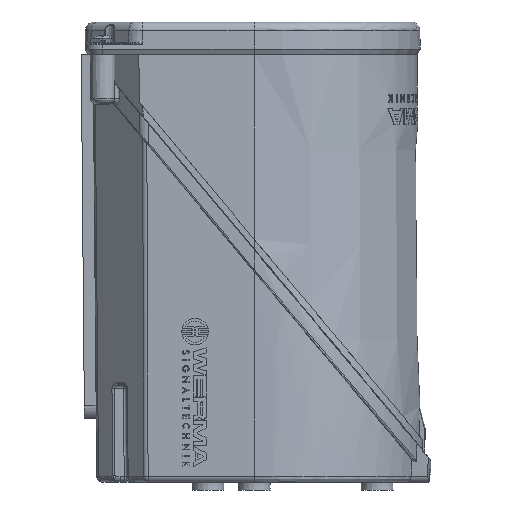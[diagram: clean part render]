
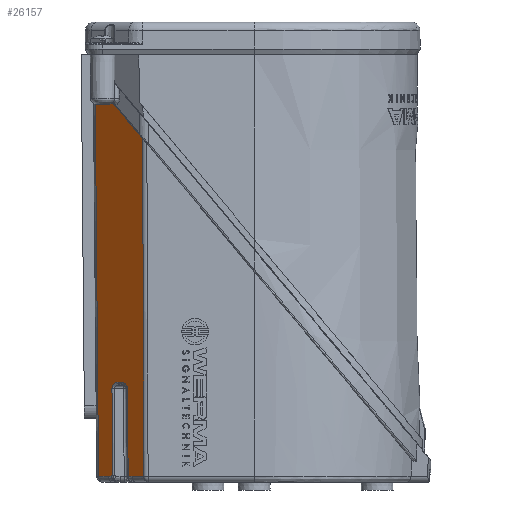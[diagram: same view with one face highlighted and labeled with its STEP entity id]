
A CAD part, left-side view. The second image highlights one B-rep face of the part: STEP entity #26157.
In plain terms, the highlighted planar face has unit normal (-0.707, 0.707, -0.009).
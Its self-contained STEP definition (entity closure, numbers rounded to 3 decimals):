
#242=ELLIPSE('',#28346,2.829,2.);
#243=ELLIPSE('',#28347,2.829,2.);
#244=ELLIPSE('',#28348,2.829,2.);
#245=ELLIPSE('',#28349,2.829,2.);
#1256=PLANE('',#28345);
#3287=LINE('',#57488,#5422);
#3288=LINE('',#57498,#5423);
#3289=LINE('',#57504,#5424);
#3290=LINE('',#57508,#5425);
#3291=LINE('',#57511,#5426);
#3292=LINE('',#57517,#5427);
#3293=LINE('',#57519,#5428);
#3294=LINE('',#57521,#5429);
#3295=LINE('',#57525,#5430);
#5422=VECTOR('',#34466,10.);
#5423=VECTOR('',#34469,10.);
#5424=VECTOR('',#34470,10.);
#5425=VECTOR('',#34473,10.);
#5426=VECTOR('',#34476,10.);
#5427=VECTOR('',#34477,10.);
#5428=VECTOR('',#34478,10.);
#5429=VECTOR('',#34479,10.);
#5430=VECTOR('',#34482,10.);
#5858=(
BOUNDED_CURVE()
B_SPLINE_CURVE(2,(#35646,#35647,#35648),.UNSPECIFIED.,.F.,.F.)
B_SPLINE_CURVE_WITH_KNOTS((3,3),(0.5,1.),.UNSPECIFIED.)
CURVE()
GEOMETRIC_REPRESENTATION_ITEM()
RATIONAL_B_SPLINE_CURVE((1.,1.,1.))
REPRESENTATION_ITEM('')
);
#5864=(
BOUNDED_CURVE()
B_SPLINE_CURVE(2,(#36134,#36135,#36136),.UNSPECIFIED.,.F.,.F.)
B_SPLINE_CURVE_WITH_KNOTS((3,3),(0.5,1.),.UNSPECIFIED.)
CURVE()
GEOMETRIC_REPRESENTATION_ITEM()
RATIONAL_B_SPLINE_CURVE((1.,1.,1.))
REPRESENTATION_ITEM('')
);
#5912=(
BOUNDED_CURVE()
B_SPLINE_CURVE(2,(#57500,#57501,#57502),.UNSPECIFIED.,.F.,.F.)
B_SPLINE_CURVE_WITH_KNOTS((3,3),(0.,0.5),.UNSPECIFIED.)
CURVE()
GEOMETRIC_REPRESENTATION_ITEM()
RATIONAL_B_SPLINE_CURVE((1.,1.,1.))
REPRESENTATION_ITEM('')
);
#5913=(
BOUNDED_CURVE()
B_SPLINE_CURVE(2,(#57513,#57514,#57515),.UNSPECIFIED.,.F.,.F.)
B_SPLINE_CURVE_WITH_KNOTS((3,3),(0.,0.5),.UNSPECIFIED.)
CURVE()
GEOMETRIC_REPRESENTATION_ITEM()
RATIONAL_B_SPLINE_CURVE((1.,1.,1.))
REPRESENTATION_ITEM('')
);
#7073=FACE_OUTER_BOUND('',#8538,.T.);
#8538=EDGE_LOOP('',(#22203,#22204,#22205,#22206,#22207,#22208,#22209,#22210,
#22211,#22212,#22213,#22214,#22215,#22216,#22217,#22218,#22219));
#10060=VERTEX_POINT('',#35638);
#10061=VERTEX_POINT('',#35645);
#10084=VERTEX_POINT('',#36126);
#10085=VERTEX_POINT('',#36133);
#12181=VERTEX_POINT('',#57477);
#12184=VERTEX_POINT('',#57487);
#12185=VERTEX_POINT('',#57499);
#12186=VERTEX_POINT('',#57503);
#12187=VERTEX_POINT('',#57505);
#12188=VERTEX_POINT('',#57507);
#12189=VERTEX_POINT('',#57509);
#12190=VERTEX_POINT('',#57512);
#12191=VERTEX_POINT('',#57516);
#12192=VERTEX_POINT('',#57518);
#12193=VERTEX_POINT('',#57520);
#12194=VERTEX_POINT('',#57522);
#12195=VERTEX_POINT('',#57524);
#12475=EDGE_CURVE('',#10060,#10061,#5858,.T.);
#12507=EDGE_CURVE('',#10084,#10085,#5864,.T.);
#15649=EDGE_CURVE('',#12181,#12184,#3287,.T.);
#15651=EDGE_CURVE('',#10085,#12181,#3288,.T.);
#15652=EDGE_CURVE('',#12185,#10084,#5912,.T.);
#15653=EDGE_CURVE('',#12186,#12185,#3289,.T.);
#15654=EDGE_CURVE('',#12187,#12186,#242,.T.);
#15655=EDGE_CURVE('',#12188,#12187,#3290,.T.);
#15656=EDGE_CURVE('',#12189,#12188,#243,.T.);
#15657=EDGE_CURVE('',#10061,#12189,#3291,.T.);
#15658=EDGE_CURVE('',#12190,#10060,#5913,.T.);
#15659=EDGE_CURVE('',#12191,#12190,#3292,.T.);
#15660=EDGE_CURVE('',#12192,#12191,#3293,.T.);
#15661=EDGE_CURVE('',#12193,#12192,#3294,.T.);
#15662=EDGE_CURVE('',#12194,#12193,#244,.F.);
#15663=EDGE_CURVE('',#12194,#12195,#3295,.T.);
#15664=EDGE_CURVE('',#12195,#12184,#245,.T.);
#22203=ORIENTED_EDGE('',*,*,#15649,.F.);
#22204=ORIENTED_EDGE('',*,*,#15651,.F.);
#22205=ORIENTED_EDGE('',*,*,#12507,.F.);
#22206=ORIENTED_EDGE('',*,*,#15652,.F.);
#22207=ORIENTED_EDGE('',*,*,#15653,.F.);
#22208=ORIENTED_EDGE('',*,*,#15654,.F.);
#22209=ORIENTED_EDGE('',*,*,#15655,.F.);
#22210=ORIENTED_EDGE('',*,*,#15656,.F.);
#22211=ORIENTED_EDGE('',*,*,#15657,.F.);
#22212=ORIENTED_EDGE('',*,*,#12475,.F.);
#22213=ORIENTED_EDGE('',*,*,#15658,.F.);
#22214=ORIENTED_EDGE('',*,*,#15659,.F.);
#22215=ORIENTED_EDGE('',*,*,#15660,.F.);
#22216=ORIENTED_EDGE('',*,*,#15661,.F.);
#22217=ORIENTED_EDGE('',*,*,#15662,.F.);
#22218=ORIENTED_EDGE('',*,*,#15663,.T.);
#22219=ORIENTED_EDGE('',*,*,#15664,.T.);
#26157=ADVANCED_FACE('',(#7073),#1256,.T.);
#28345=AXIS2_PLACEMENT_3D('',#57497,#34467,#34468);
#28346=AXIS2_PLACEMENT_3D('',#57506,#34471,#34472);
#28347=AXIS2_PLACEMENT_3D('',#57510,#34474,#34475);
#28348=AXIS2_PLACEMENT_3D('',#57523,#34480,#34481);
#28349=AXIS2_PLACEMENT_3D('',#57526,#34483,#34484);
#34466=DIRECTION('',(-0.004,0.009,1.));
#34467=DIRECTION('center_axis',(-0.707,0.707,-0.009));
#34468=DIRECTION('ref_axis',(-0.006,0.006,1.));
#34469=DIRECTION('',(0.707,0.707,0.));
#34470=DIRECTION('',(0.009,-0.004,-1.));
#34471=DIRECTION('center_axis',(-0.707,0.707,-0.009));
#34472=DIRECTION('ref_axis',(0.707,0.707,0.009));
#34473=DIRECTION('',(0.707,0.707,0.));
#34474=DIRECTION('center_axis',(-0.707,0.707,-0.009));
#34475=DIRECTION('ref_axis',(-0.707,-0.707,0.009));
#34476=DIRECTION('',(-0.004,0.009,1.));
#34477=DIRECTION('',(0.707,0.707,0.));
#34478=DIRECTION('',(0.009,-0.004,-1.));
#34479=DIRECTION('',(-0.535,-0.543,-0.647));
#34480=DIRECTION('center_axis',(0.707,-0.707,0.009));
#34481=DIRECTION('ref_axis',(-0.707,-0.707,0.009));
#34482=DIRECTION('',(0.707,0.707,0.));
#34483=DIRECTION('center_axis',(0.707,-0.707,0.009));
#34484=DIRECTION('ref_axis',(0.707,0.707,-0.009));
#35638=CARTESIAN_POINT('',(4.191,40.621,2.039));
#35645=CARTESIAN_POINT('',(4.508,40.941,2.207));
#35646=CARTESIAN_POINT('Ctrl Pts',(4.191,40.621,2.039));
#35647=CARTESIAN_POINT('Ctrl Pts',(4.509,40.94,2.095));
#35648=CARTESIAN_POINT('Ctrl Pts',(4.508,40.941,2.207));
#36126=CARTESIAN_POINT('',(9.979,46.409,2.039));
#36133=CARTESIAN_POINT('',(10.933,47.363,1.983));
#36134=CARTESIAN_POINT('Ctrl Pts',(9.979,46.409,2.039));
#36135=CARTESIAN_POINT('Ctrl Pts',(10.297,46.727,1.983));
#36136=CARTESIAN_POINT('Ctrl Pts',(10.933,47.363,1.983));
#57477=CARTESIAN_POINT('',(14.133,50.563,1.983));
#57487=CARTESIAN_POINT('',(13.696,51.618,122.912));
#57488=CARTESIAN_POINT('',(14.14,50.545,-0.033));
#57497=CARTESIAN_POINT('Origin',(-1.417,34.989,0.004));
#57498=CARTESIAN_POINT('',(4.275,40.705,1.983));
#57499=CARTESIAN_POINT('',(9.659,46.092,2.207));
#57500=CARTESIAN_POINT('Ctrl Pts',(9.659,46.092,2.207));
#57501=CARTESIAN_POINT('Ctrl Pts',(9.66,46.091,2.095));
#57502=CARTESIAN_POINT('Ctrl Pts',(9.979,46.409,2.039));
#57503=CARTESIAN_POINT('',(9.412,46.194,30.509));
#57504=CARTESIAN_POINT('',(9.541,46.141,15.773));
#57505=CARTESIAN_POINT('',(7.412,44.219,32.491));
#57506=CARTESIAN_POINT('Origin',(7.412,44.194,30.491));
#57507=CARTESIAN_POINT('',(6.381,43.188,32.491));
#57508=CARTESIAN_POINT('',(2.651,39.457,32.491));
#57509=CARTESIAN_POINT('',(4.406,41.188,30.509));
#57510=CARTESIAN_POINT('Origin',(6.406,43.188,30.491));
#57511=CARTESIAN_POINT('',(4.459,41.059,15.74));
#57512=CARTESIAN_POINT('',(3.237,39.667,1.983));
#57513=CARTESIAN_POINT('Ctrl Pts',(3.237,39.667,1.983));
#57514=CARTESIAN_POINT('Ctrl Pts',(3.873,40.303,1.983));
#57515=CARTESIAN_POINT('Ctrl Pts',(4.191,40.621,2.039));
#57516=CARTESIAN_POINT('',(-0.592,35.838,1.983));
#57517=CARTESIAN_POINT('',(4.275,40.705,1.983));
#57518=CARTESIAN_POINT('',(-1.542,36.243,111.709));
#57519=CARTESIAN_POINT('',(-0.575,35.83,-0.055));
#57520=CARTESIAN_POINT('',(8.093,46.02,123.361));
#57521=CARTESIAN_POINT('',(-26.58,10.83,81.423));
#57522=CARTESIAN_POINT('',(9.428,47.349,122.856));
#57523=CARTESIAN_POINT('Origin',(9.403,47.349,124.856));
#57524=CARTESIAN_POINT('',(13.229,51.151,122.856));
#57525=CARTESIAN_POINT('',(3.412,41.333,122.856));
#57526=CARTESIAN_POINT('Origin',(13.204,51.151,124.856));
